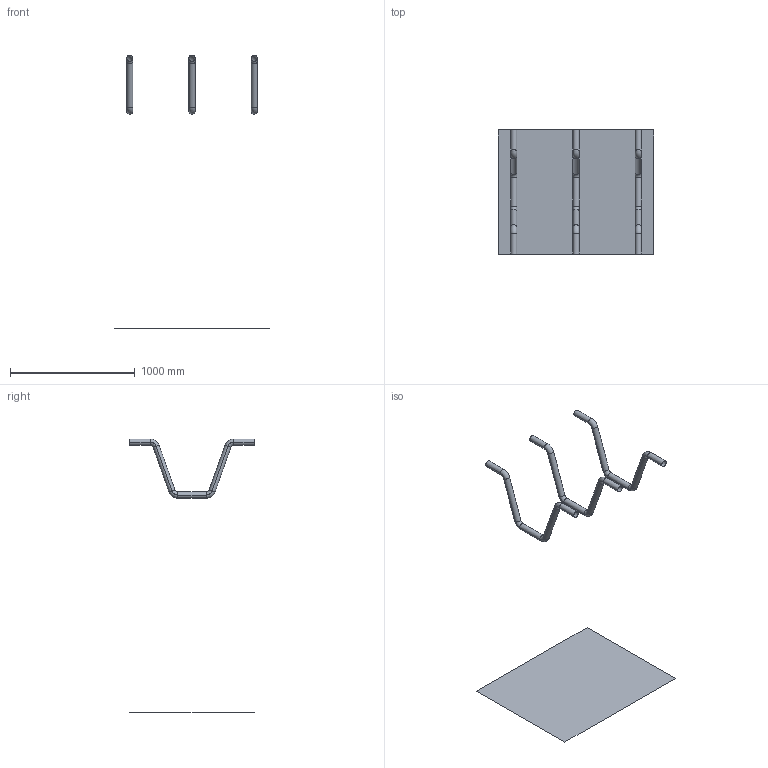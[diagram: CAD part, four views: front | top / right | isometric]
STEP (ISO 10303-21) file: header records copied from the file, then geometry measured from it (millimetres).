
FILE_DESCRIPTION(('CATIA V5 STEP Exchange'),'2;1');
FILE_NAME('C:\_Andres\UNIVERSIDAD\IQS\ASIGNATURAS\DAO\EXF\EXF-16172c\2inicio\Quiroga_Garcia_Ej08_v25.stp','2017-03-05T21:54:55+00:00',('none'),('none'),'CATIA Version 5-6 Release 2014 SP1 HF18','CATIA V5 STEP AP203','none');
FILE_SCHEMA(('CONFIG_CONTROL_DESIGN'));
Length unit declared in the file: millimetre
Products named in the file (1): Quiroga_Garcia_Ej08_v25
Bounding box: 1250 x 1000 x 2200 mm (x, y, z)
Surface area: 1987339.3 mm2 (no closed solid volume)
Topology: 0 solids, 4 shells, 55 faces, 118 edges, 64 vertices
Faces by surface type: cylinder 30, torus 24, plane 1
Entity records: 1283 total; most frequent: ORIENTED_EDGE 220, CARTESIAN_POINT 208, DIRECTION 168, EDGE_CURVE 118, AXIS2_PLACEMENT_3D 110, CIRCLE 84, VERTEX_POINT 64, ADVANCED_FACE 55
